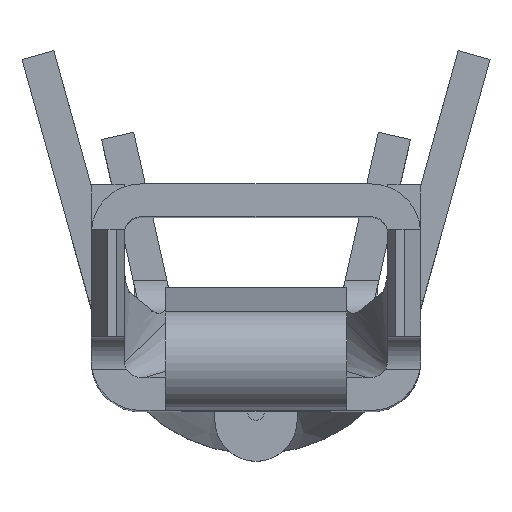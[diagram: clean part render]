
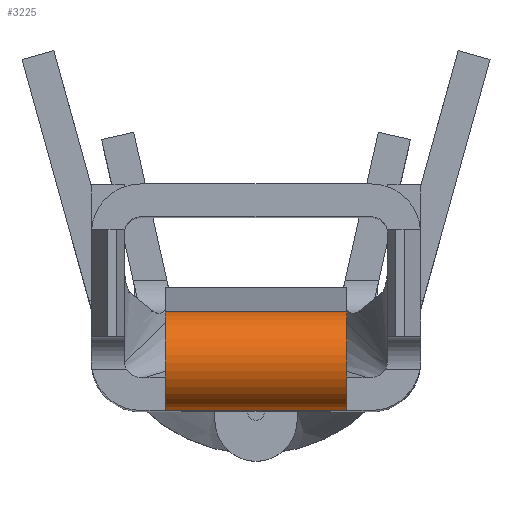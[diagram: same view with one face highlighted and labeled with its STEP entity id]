
A CAD part, top view. The second image highlights one B-rep face of the part: STEP entity #3225.
In plain terms, the highlighted cylindrical face has radius 0.6 mm (diameter 1.2 mm), a partial arc.
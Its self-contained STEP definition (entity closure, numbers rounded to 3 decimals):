
#622=DIRECTION('',(1.,0.,0.));
#623=VECTOR('',#622,2.2);
#624=CARTESIAN_POINT('',(-1.1,0.,-0.8));
#625=LINE('',#624,#623);
#786=CARTESIAN_POINT('',(-1.1,0.6,-0.8));
#787=DIRECTION('',(1.,0.,0.));
#788=DIRECTION('',(0.,0.996,0.092));
#789=AXIS2_PLACEMENT_3D('',#786,#787,#788);
#803=CARTESIAN_POINT('',(1.1,0.6,-0.8));
#804=DIRECTION('',(1.,0.,0.));
#805=DIRECTION('',(0.,0.996,0.092));
#806=AXIS2_PLACEMENT_3D('',#803,#804,#805);
#847=DIRECTION('',(1.,0.,0.));
#848=VECTOR('',#847,2.2);
#849=CARTESIAN_POINT('',(-1.1,1.197,-0.745));
#850=LINE('',#849,#848);
#1771=CARTESIAN_POINT('',(-1.1,1.197,-0.745));
#1773=VERTEX_POINT('',#1771);
#1774=CARTESIAN_POINT('',(-1.1,0.,-0.8));
#1775=VERTEX_POINT('',#1774);
#1783=CARTESIAN_POINT('',(1.1,1.197,-0.745));
#1785=VERTEX_POINT('',#1783);
#1786=CARTESIAN_POINT('',(1.1,0.,-0.8));
#1787=VERTEX_POINT('',#1786);
#3213=CARTESIAN_POINT('',(-1.1,0.6,-0.8));
#3214=DIRECTION('',(1.,0.,0.));
#3215=DIRECTION('',(0.,0.,-1.));
#3216=AXIS2_PLACEMENT_3D('',#3213,#3214,#3215);
#3217=CYLINDRICAL_SURFACE('',#3216,0.6);
#3218=ORIENTED_EDGE('',*,*,#3165,.F.);
#3220=ORIENTED_EDGE('',*,*,#3219,.T.);
#3221=ORIENTED_EDGE('',*,*,#3192,.T.);
#3222=ORIENTED_EDGE('',*,*,#2833,.F.);
#3223=EDGE_LOOP('',(#3218,#3220,#3221,#3222));
#3224=FACE_OUTER_BOUND('',#3223,.F.);
#3225=ADVANCED_FACE('',(#3224),#3217,.T.);
#790=CIRCLE('',#789,0.6);
#807=CIRCLE('',#806,0.6);
#2833=EDGE_CURVE('',#1775,#1787,#625,.T.);
#3165=EDGE_CURVE('',#1773,#1775,#790,.T.);
#3192=EDGE_CURVE('',#1785,#1787,#807,.T.);
#3219=EDGE_CURVE('',#1773,#1785,#850,.T.);
